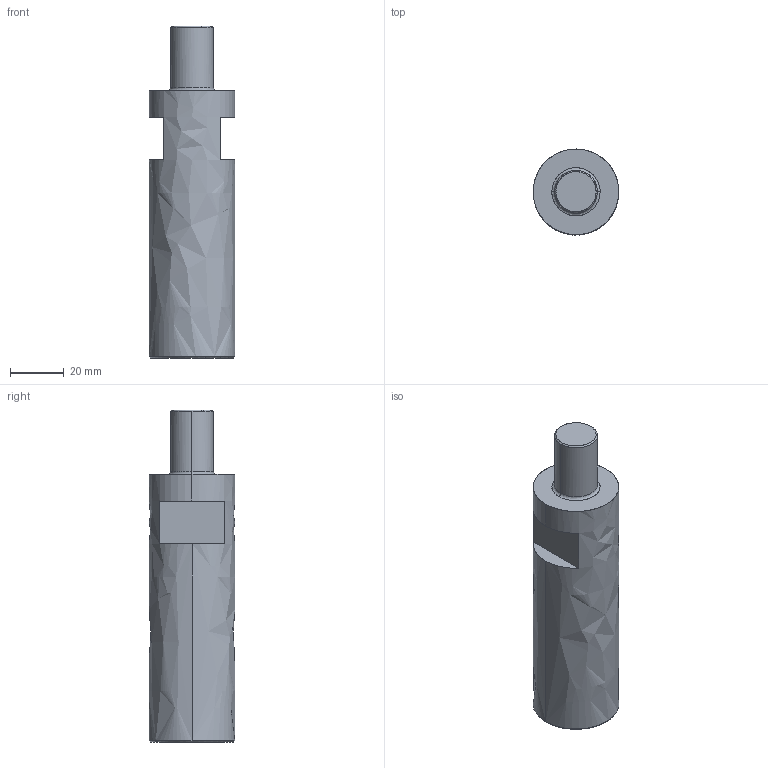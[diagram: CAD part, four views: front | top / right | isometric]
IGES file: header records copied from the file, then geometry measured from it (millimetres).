
Global section: file name: E:\UnigraphicsGraphicData\MISUMI_PRESS-PARTS\IGES\3d_mcup32-100_01362_r00.igs; native system: NX V5.0; preprocessor: UGS NX IGES V5.0; author: MISUMI; date: 20110105.161309; units: millimetre
Bounding box: 32 x 32 x 124 mm (x, y, z)
Surface area: 13067.9 mm2 (no closed solid volume)
Topology: 0 solids, 0 shells, 19 faces, 132 edges, 132 vertices
Faces by surface type: bspline 19
